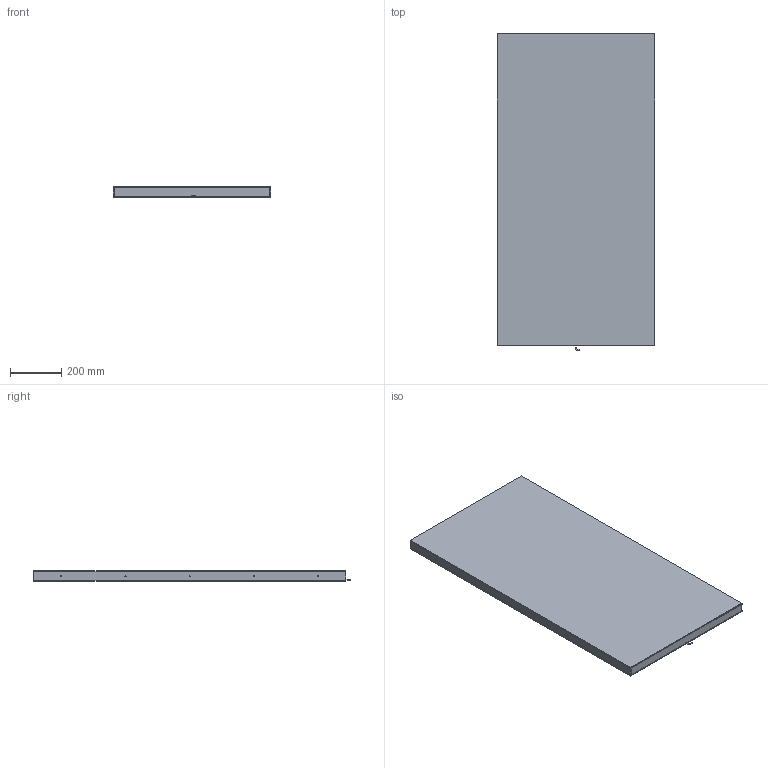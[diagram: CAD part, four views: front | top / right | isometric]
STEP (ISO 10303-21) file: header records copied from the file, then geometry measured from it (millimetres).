
FILE_DESCRIPTION (( 'STEP AP203' ), '1' );
FILE_NAME ('CRT-FLD1200600-¼òÒ×3DÍ¼.STEP', '2021-11-23T08:57:32', ( 'Admin' ), ( '' ), 'SwSTEP 2.0', 'SolidWorks 2018', '' );
FILE_SCHEMA (( 'CONFIG_CONTROL_DESIGN' ));
Length unit declared in the file: millimetre
Products named in the file (1): CRT-FLD1200600-潠眢3D芞
Bounding box: 614 x 1231.75 x 41 mm (x, y, z)
Surface area: 2385886 mm2 (no closed solid volume)
Topology: 0 solids, 7 shells, 61 faces, 180 edges, 122 vertices
Faces by surface type: plane 35, cylinder 24, bspline 2
Entity records: 2136 total; most frequent: CARTESIAN_POINT 450, DIRECTION 345, ORIENTED_EDGE 274, EDGE_CURVE 180, VECTOR 127, LINE 127, VERTEX_POINT 122, AXIS2_PLACEMENT_3D 109
